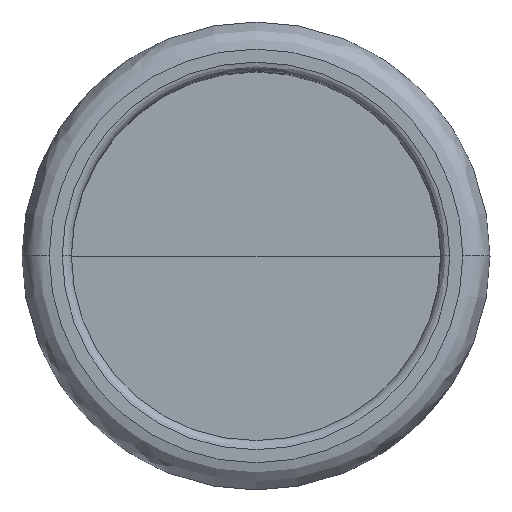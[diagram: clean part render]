
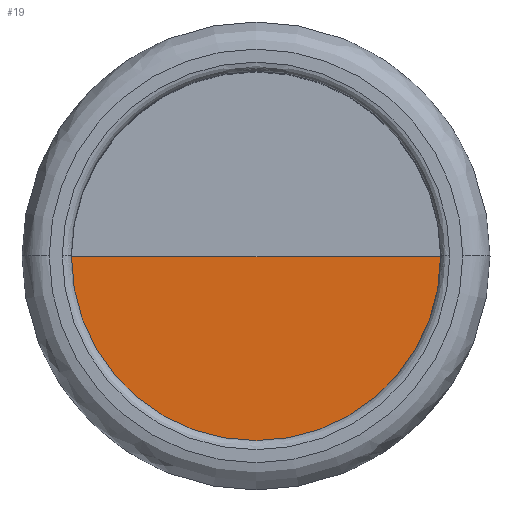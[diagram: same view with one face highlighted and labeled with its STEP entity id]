
A CAD part, top view. The second image highlights one B-rep face of the part: STEP entity #19.
In plain terms, the highlighted planar face has unit normal (0, 0, 1).
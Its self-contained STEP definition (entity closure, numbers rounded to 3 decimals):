
#19=ADVANCED_FACE('',(#32),#182,.T.);
#32=FACE_OUTER_BOUND('',#46,.T.);
#46=EDGE_LOOP('',(#70,#71,#72));
#70=ORIENTED_EDGE('',*,*,#121,.T.);
#71=ORIENTED_EDGE('',*,*,#109,.F.);
#72=ORIENTED_EDGE('',*,*,#110,.T.);
#109=EDGE_CURVE('',#170,#169,#127,.T.);
#110=EDGE_CURVE('',#170,#176,#140,.T.);
#121=EDGE_CURVE('',#176,#169,#129,.T.);
#127=B_SPLINE_CURVE_WITH_KNOTS('',1,(#737,#738),.UNSPECIFIED.,.F.,.F.,(2,
2),(513.,762.516),.UNSPECIFIED.);
#129=B_SPLINE_CURVE_WITH_KNOTS('',1,(#793,#794),.UNSPECIFIED.,.F.,.F.,(2,
2),(513.,762.516),.UNSPECIFIED.);
#140=TRIMMED_CURVE($,#154,(#740),(#741),.T.,.CARTESIAN.);
#154=CIRCLE('',#288,242.516);
#169=VERTEX_POINT('',#687);
#170=VERTEX_POINT('',#688);
#176=VERTEX_POINT('',#694);
#182=PLANE('',#281);
#281=AXIS2_PLACEMENT_3D('',#494,#303,$);
#288=AXIS2_PLACEMENT_3D($,#739,#313,#314);
#303=DIRECTION('',(0.,0.,1.));
#313=DIRECTION('',(0.,0.,1.));
#314=DIRECTION('',(-1.,0.,0.));
#494=CARTESIAN_POINT('',(1067.5,1691.,52.));
#687=CARTESIAN_POINT('',(1310.016,1691.,52.));
#688=CARTESIAN_POINT('',(1067.5,1691.,52.));
#694=CARTESIAN_POINT('',(1552.532,1691.,52.));
#737=CARTESIAN_POINT('',(1067.5,1691.,52.));
#738=CARTESIAN_POINT('',(1310.016,1691.,52.));
#739=CARTESIAN_POINT('',(1310.016,1691.,52.));
#740=CARTESIAN_POINT('',(1067.5,1691.,52.));
#741=CARTESIAN_POINT('',(1552.532,1691.,52.));
#793=CARTESIAN_POINT('',(1552.532,1691.,52.));
#794=CARTESIAN_POINT('',(1310.016,1691.,52.));
